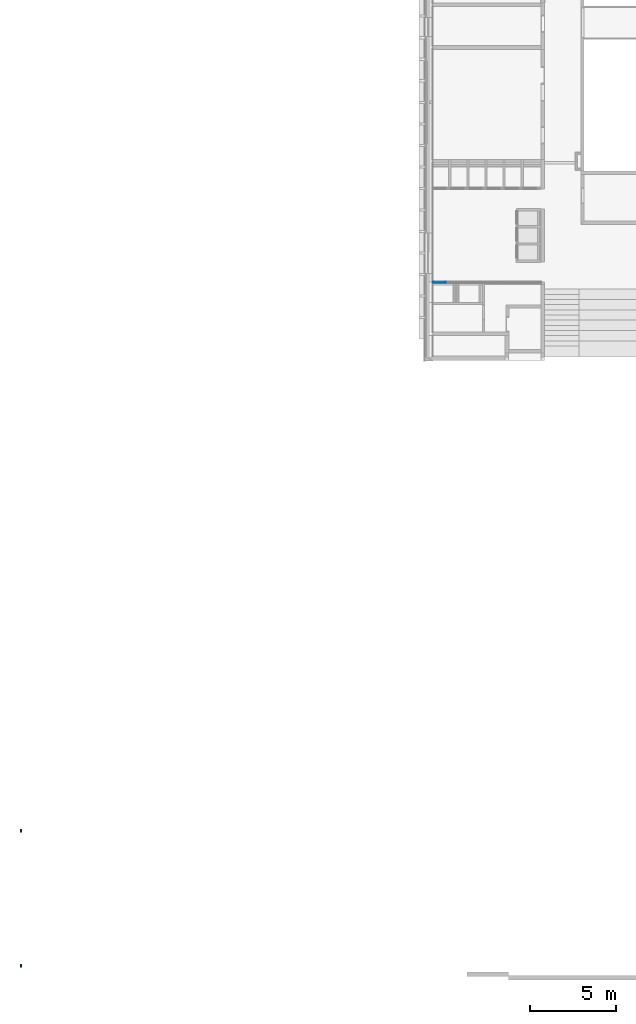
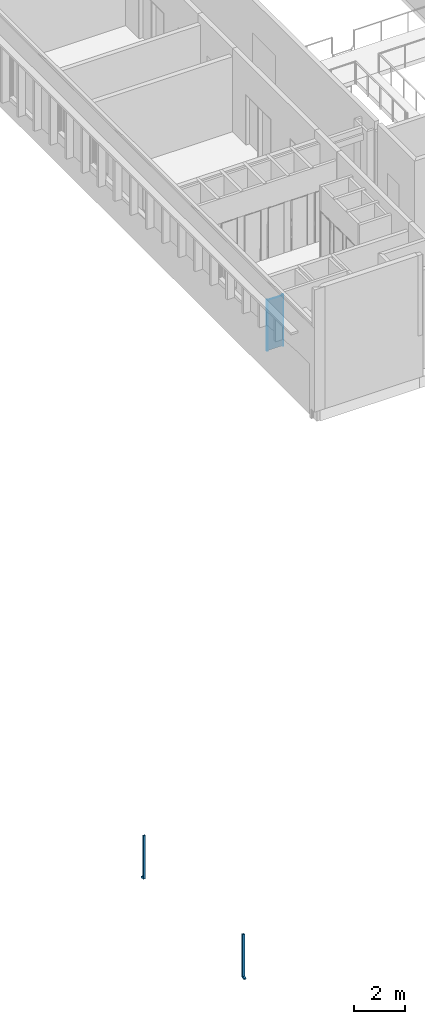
# One storey, part 49 of 89: 2 building element parts, 2 discrete accessories, 2 elements without a shape of their own.
"""IFC2X3 building model written with IfcOpenShell, lengths in millimetres."""

from ifc_helpers import new_model, entity, si_unit, converted_unit, derived_unit, money_unit, direction, frame, origin_with_axes, place, context, subcontext, project, spatial, open_shell, faceted_brep, surface_model, material, type_object, element, aggregate, save


model = new_model("IFC2X3")

# Units and contexts
model_context = context("Model", 3, precision=0.01, world=origin_with_axes(), true_north=direction((0.0, 1.0)))
body_context = subcontext(model_context, "Body", "Model", "MODEL_VIEW")
ifc_project = project(units=[si_unit("LENGTHUNIT", "METRE", prefix="MILLI"), si_unit("AREAUNIT", "SQUARE_METRE"), si_unit("VOLUMEUNIT", "CUBIC_METRE"), converted_unit("PLANEANGLEUNIT", "DEGREE", entity("IfcPlaneAngleMeasure", 0.0174532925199), si_unit("PLANEANGLEUNIT", "RADIAN"), dimensions=[0, 0, 0, 0, 0, 0, 0]), si_unit("SOLIDANGLEUNIT", "STERADIAN"), money_unit("EUR"), converted_unit("TIMEUNIT", "Year", entity("IfcTimeMeasure", 31556926.0), si_unit("TIMEUNIT", "SECOND"), dimensions=[0, 0, 1, 0, 0, 0, 0]), si_unit("MASSUNIT", "GRAM", prefix="KILO"), si_unit("THERMODYNAMICTEMPERATUREUNIT", "DEGREE_CELSIUS"), si_unit("LUMINOUSINTENSITYUNIT", "LUMEN"), si_unit("ENERGYUNIT", "JOULE", prefix="MEGA"), derived_unit("THERMALCONDUCTANCEUNIT", [(si_unit("POWERUNIT", "WATT"), 1), (si_unit("LENGTHUNIT", "METRE"), -1), (si_unit("THERMODYNAMICTEMPERATUREUNIT", "KELVIN"), -1)]), derived_unit("SPECIFICHEATCAPACITYUNIT", [(si_unit("ENERGYUNIT", "JOULE"), 1), (si_unit("MASSUNIT", "GRAM", prefix="KILO"), -1), (si_unit("THERMODYNAMICTEMPERATUREUNIT", "KELVIN"), -1)]), derived_unit("MASSDENSITYUNIT", [(si_unit("MASSUNIT", "GRAM", prefix="KILO"), 1), (si_unit("VOLUMEUNIT", "CUBIC_METRE"), -1)])], contexts=[model_context])

# Site, building, storey
site_placement = place(None, origin_with_axes())
site = spatial("IfcSite", under=ifc_project, at=site_placement, Name="Puškini 31, Narva", CompositionType="ELEMENT")
building_placement = place(site_placement, origin_with_axes())
building = spatial("IfcBuilding", under=site, at=building_placement, Name="Narva Riigigümnaasium", CompositionType="ELEMENT")
storey_placement = place(building_placement, frame((0.0, 0.0, -3300.0), z_axis=(0.0, 0.0, 1.0), x_axis=(1.0, 0.0, 0.0)))
storey = spatial("IfcBuildingStorey", under=building, at=storey_placement, Name="1.korrus -3.3", CompositionType="ELEMENT", Elevation=-3300.0)

# Discrete accessories
discrete_accessory_type = type_object("IfcDiscreteAccessoryType", Name="Downspout Complex 23")
discrete_accessory_1_placement = place(storey_placement, frame((4496.44905495, 159640.843053, 2634.90485195), z_axis=(0.0, 0.0, 1.0), x_axis=(1.0, 0.0, 0.0)))
element("IfcDiscreteAccessory", 1, at=discrete_accessory_1_placement, inside=storey, type_object=discrete_accessory_type, Name="Vihmaveetoru", context=body_context, shape_type="SurfaceModel", body=[
    surface_model("IfcShellBasedSurfaceModel", [(50.0, 25.0, 162.977517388), (50.0, -50.0, 162.977517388), (50.0, -50.0, 94.4437535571), (50.0, -166.732969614, 73.8605814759), (50.0, -153.709356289, 0.0), (50.0, 25.0, 31.5112812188), (-50.0, -50.0, 162.977517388), (-50.0, -50.0, 94.4437535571), (-50.0, -166.732969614, 73.8605814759), (-50.0, 25.0, 31.5112812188), (-50.0, -153.709356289, 0.0), (-50.0, 25.0, 162.977517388)], [open_shell([[[0, 1, 2, 3, 4, 5]], [[1, 6, 7, 2]], [[2, 7, 8, 3]], [[9, 5, 4, 10]], [[11, 0, 5, 9]], [[6, 11, 9, 10, 8, 7]]])]),
    surface_model("IfcShellBasedSurfaceModel", [(-50.0, -50.0, 2085.09514805), (-50.0, 25.0, 2085.09514805), (-50.0, 25.0, 162.977517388), (-50.0, -50.0, 162.977517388), (50.0, 25.0, 2085.09514805), (50.0, 25.0, 162.977517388), (50.0, -50.0, 2085.09514805), (50.0, -50.0, 162.977517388)], [open_shell([[[0, 1, 2, 3]], [[1, 4, 5, 2]], [[6, 0, 3, 7]], [[4, 6, 7, 5]]])]),
])
discrete_accessory_2_placement = place(storey_placement, frame((4496.44905495, 167330.842904, 2634.90485195), z_axis=(0.0, 0.0, 1.0), x_axis=(-1.0, 0.0, 0.0)))
element("IfcDiscreteAccessory", 2, at=discrete_accessory_2_placement, inside=storey, type_object=discrete_accessory_type, Name="Vihmaveetoru", context=body_context, shape_type="SurfaceModel", body=[
    surface_model("IfcShellBasedSurfaceModel", [(-50.0, 25.0, 162.977517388), (-50.0, 25.0, 31.5112812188), (-50.0, -153.709356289, 0.0), (-50.0, -166.732969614, 73.8605814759), (-50.0, -50.0, 94.4437535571), (-50.0, -50.0, 162.977517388), (50.0, 25.0, 162.977517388), (50.0, 25.0, 31.5112812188), (50.0, -153.709356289, 0.0), (50.0, -166.732969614, 73.8605814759), (50.0, -50.0, 94.4437535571), (50.0, -50.0, 162.977517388)], [open_shell([[[0, 1, 2, 3, 4, 5]], [[6, 7, 1, 0]], [[7, 8, 2, 1]], [[4, 3, 9, 10]], [[5, 4, 10, 11]], [[11, 10, 9, 8, 7, 6]]])]),
    surface_model("IfcShellBasedSurfaceModel", [(50.0, -50.0, 2085.09514805), (50.0, -50.0, 162.977517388), (50.0, 25.0, 162.977517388), (50.0, 25.0, 2085.09514805), (-50.0, -50.0, 2085.09514805), (-50.0, -50.0, 162.977517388), (-50.0, 25.0, 162.977517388), (-50.0, 25.0, 2085.09514805)], [open_shell([[[0, 1, 2, 3]], [[4, 5, 1, 0]], [[3, 2, 6, 7]], [[7, 6, 5, 4]]])]),
])

# Curtain wall, door, building element parts
curtain_wall_type = type_object("IfcCurtainWallType", Name="Curtain Wall Type", PredefinedType="NOTDEFINED")
curtain_wall_placement = place(storey_placement, frame((28798.9958137, 199279.999716, 0.0), z_axis=(0.0, 0.0, 1.0), x_axis=(1.0, 0.0, 0.0)))
curtain_wall = element("IfcCurtainWall", 3, at=curtain_wall_placement, inside=storey, type_object=curtain_wall_type, Name="SUS-01")
door_style = type_object("IfcDoorStyle", Name="SU-Sile 7 x 2390 x 0", ConstructionType="NOTDEFINED", OperationType="NOTDEFINED", ParameterTakesPrecedence=False, Sizeable=False)
door_placement = place(curtain_wall_placement, frame((0.0, 0.0, 1194.9999686), z_axis=(0.0, 0.0, 1.0), x_axis=(-1.0, 0.0, 0.0)))
door = element("IfcDoor", 4, at=door_placement, type_object=door_style, Name="G-SU-015", ObjectType="DOOR")
aggregate(curtain_wall, [door])
ifc_material_1 = material(Name="Alumiiniumprofiil (RAL 7021)")
building_element_part_1_placement = place(door_placement, origin_with_axes())
building_element_part_1 = element("IfcBuildingElementPart", 5, at=building_element_part_1_placement, material=ifc_material_1, Name="Alumiiniumprofiil (RAL 7021)", context=body_context, shape_type="SurfaceModel", body=[
    surface_model("IfcShellBasedSurfaceModel", [(-350.004196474, 50.0, -1194.9999686), (-338.004196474, 50.0, -1194.9999686), (-338.004196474, 50.0, 1194.9999686), (-350.004196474, 50.0, 1206.9999686)], [open_shell([[[0, 1, 2, 3]]])]),
    surface_model("IfcShellBasedSurfaceModel", [(-338.004196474, 50.0, 1194.9999686), (338.004184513, 50.0, 1194.9999686), (350.004184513, 50.0, 1206.9999686), (-350.004196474, 50.0, 1206.9999686)], [open_shell([[[0, 1, 2, 3]]])]),
    surface_model("IfcShellBasedSurfaceModel", [(338.004184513, 50.0, 1194.9999686), (338.004184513, 50.0, -1194.9999686), (350.004184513, 50.0, -1194.9999686), (350.004184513, 50.0, 1206.9999686)], [open_shell([[[0, 1, 2, 3]]])]),
    surface_model("IfcShellBasedSurfaceModel", [(-357.004199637, 0.0, -1194.9999686), (-338.004196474, 0.0, -1194.9999686), (-338.004196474, 0.0, 1194.9999686), (-357.004199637, 0.0, 1194.9999686)], [open_shell([[[0, 1, 2, 3]]])]),
    surface_model("IfcShellBasedSurfaceModel", [(357.004186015, 0.0, 1194.9999686), (338.004184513, 0.0, 1194.9999686), (338.004184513, 0.0, -1194.9999686), (357.004186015, 0.0, -1194.9999686)], [open_shell([[[0, 1, 2, 3]]])]),
])
ifc_material_2 = material(Name="MDF")
building_element_part_2_placement = place(door_placement, origin_with_axes())
building_element_part_2 = element("IfcBuildingElementPart", 6, at=building_element_part_2_placement, material=ifc_material_2, Name="MDF", context=body_context, shape_type="Brep", body=[
    faceted_brep([(350.004184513, 38.1818181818, -1194.9999686), (350.004184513, 0.0, -1194.9999686), (-350.004196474, 0.0, -1194.9999686), (-350.004196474, 38.1818181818, -1194.9999686), (350.004184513, 38.1818181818, 1206.9999686), (350.004184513, 0.0, 1206.9999686), (-350.004196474, 0.0, 1206.9999686), (-350.004196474, 38.1818181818, 1206.9999686)], [[[0, 1, 2, 3]], [[4, 5, 1, 0]], [[1, 5, 6, 2]], [[3, 2, 6, 7]], [[0, 3, 7, 4]], [[7, 6, 5, 4]]]),
    faceted_brep([(338.004040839, 50.0, -1194.9999686), (338.004040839, 38.1818181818, -1194.9999686), (-338.0040528, 38.1818181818, -1194.9999686), (-338.0040528, 50.0, -1194.9999686), (338.004040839, 50.0, 1193.27425468), (338.004040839, 38.1818181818, 1193.27425468), (-338.0040528, 38.1818181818, 1193.27425468), (-338.0040528, 50.0, 1193.27425468)], [[[0, 1, 2, 3]], [[4, 5, 1, 0]], [[1, 5, 6, 2]], [[3, 2, 6, 7]], [[0, 3, 7, 4]], [[7, 6, 5, 4]]]),
])
aggregate(door, [building_element_part_1, building_element_part_2])

save(model, "model.ifc")
